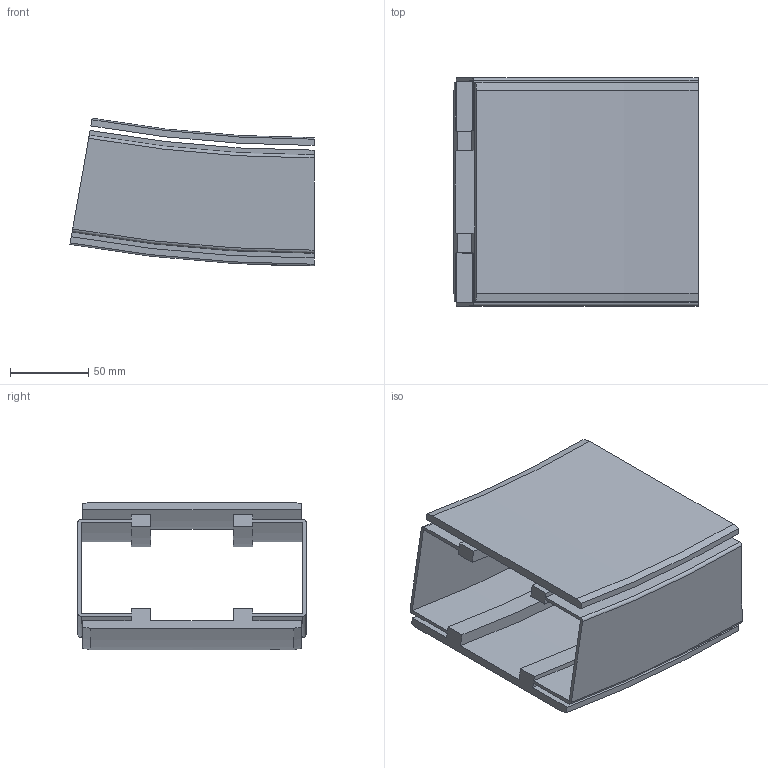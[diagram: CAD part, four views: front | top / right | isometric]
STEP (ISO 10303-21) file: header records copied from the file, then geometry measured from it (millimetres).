
FILE_DESCRIPTION(/* description */ ('VERTIKALKURVA S540 R860'),/* implementation_level */ '2;1');
FILE_NAME(/* name */ '540-5695+140-2000-NER-01.stp',/* time_stamp */ '2022-09-21T11:22:26+02:00',/* author */ ('Mathias.Dore'),/* organization */ ('CARRYLINE'),/* preprocessor_version */ 'ST-DEVELOPER v19.2',/* originating_system */ 'Autodesk Inventor 2023',/* authorisation */ '');
FILE_SCHEMA (('AUTOMOTIVE_DESIGN { 1 0 10303 214 3 1 1 }'));
Length unit declared in the file: millimetre
Products named in the file (1): 540-5695+140-2000-NER-01
Bounding box: 156.2 x 146 x 94.42 mm (x, y, z)
Volume: 344043.4 mm3; surface area: 182306.7 mm2
Topology: 2 solids, 2 shells, 87 faces, 234 edges, 156 vertices
Faces by surface type: plane 40, cylinder 25, bspline 14, cone 4, torus 4
Entity records: 7369 total; most frequent: CARTESIAN_POINT 5170, ORIENTED_EDGE 468, DIRECTION 408, EDGE_CURVE 234, VERTEX_POINT 156, AXIS2_PLACEMENT_3D 141, LINE 126, VECTOR 126
